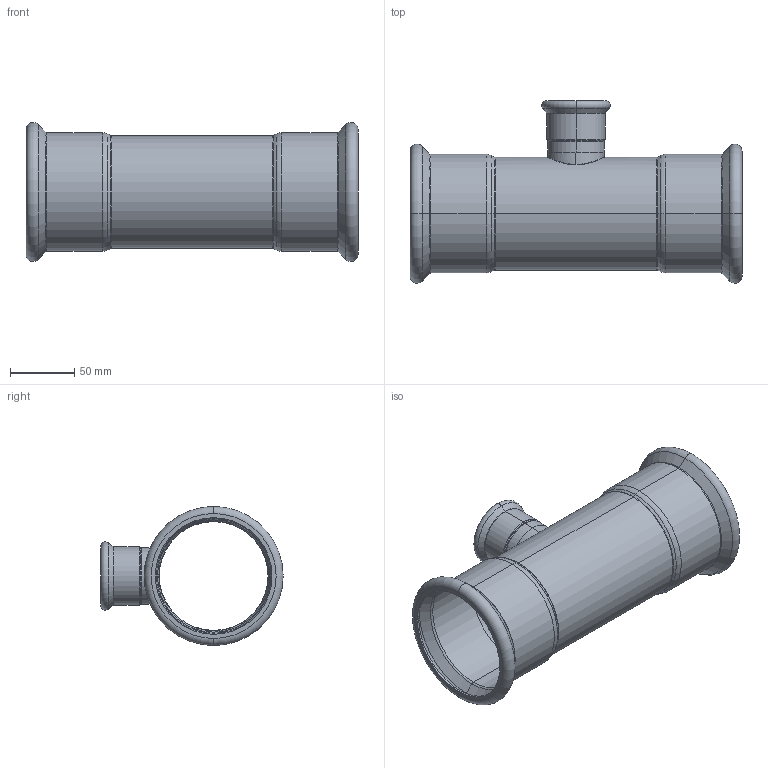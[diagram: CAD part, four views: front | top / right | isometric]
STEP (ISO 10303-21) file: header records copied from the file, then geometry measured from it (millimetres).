
FILE_DESCRIPTION (( 'STEP AP203' ), '1' );
FILE_NAME ('GDA5220.STEP', '2019-01-12T06:16:48', ( '' ), ( '' ), 'SwSTEP 2.0', 'SolidWorks 2015', '' );
FILE_SCHEMA (( 'CONFIG_CONTROL_DESIGN' ));
Length unit declared in the file: millimetre
Products named in the file (3): GDA5220; T(R)-¢ñ-88.9¡Á42''; T-ｉ-01-42
Assembly tree (2 placements, depth 2):
  GDA5220
    T(R)-¢ñ-88.9¡Á42''
    T-ｉ-01-42
Bounding box: 259 x 142.24 x 108.48 mm (x, y, z)
Volume: 126821.9 mm3; surface area: 169971.7 mm2
Topology: 2 solids, 2 shells, 114 faces, 234 edges, 128 vertices
Faces by surface type: torus 48, cylinder 30, cone 24, plane 8, bspline 4
Entity records: 4409 total; most frequent: CARTESIAN_POINT 1619, DIRECTION 620, ORIENTED_EDGE 468, AXIS2_PLACEMENT_3D 283, EDGE_CURVE 234, CIRCLE 168, VERTEX_POINT 128, EDGE_LOOP 124
